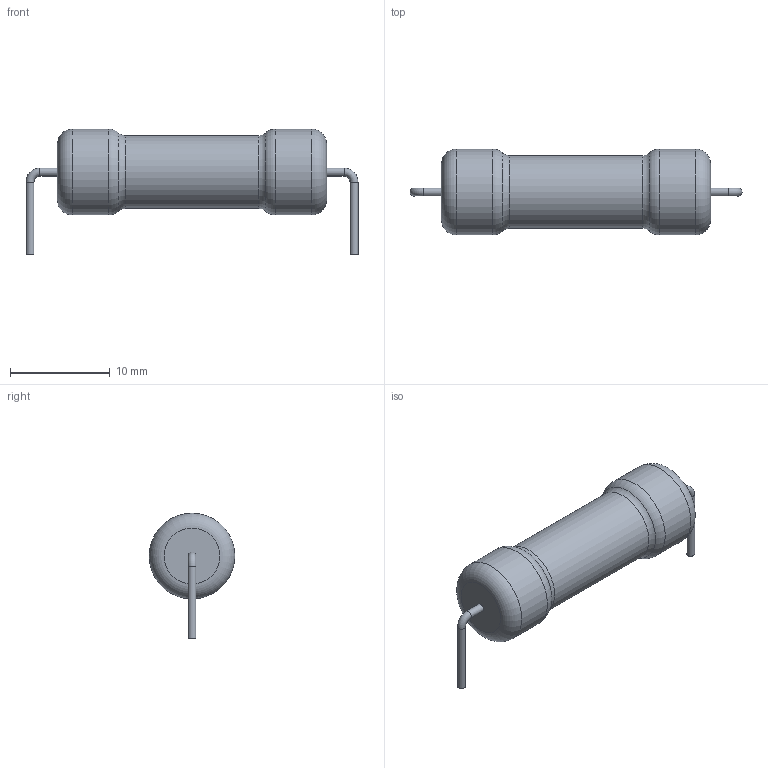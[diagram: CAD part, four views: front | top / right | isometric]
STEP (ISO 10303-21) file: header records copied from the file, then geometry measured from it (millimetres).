
FILE_DESCRIPTION(('STEP AP203'), '1');
FILE_NAME('ﾑ2-29ﾂ-2-ﾍ(1)', '', ('UNSPECIFIED'), ('UNSPECIFIED'), 'ASCON STEP Converter 1.6', 'ASCON Math Kernel', '');
FILE_SCHEMA(('CONFIG_CONTROL_DESIGN'));
Length unit declared in the file: millimetre
Bounding box: 33.3 x 8.6 x 12.6 mm (x, y, z)
Volume: 1313.5 mm3; surface area: 809.7 mm2
Topology: 1 solids, 1 shells, 19 faces, 33 edges, 18 vertices
Faces by surface type: torus 8, cylinder 7, plane 4
Full cylindrical faces by diameter (mm): 0.8 x4, 7.307 x1, 8.6 x2
Entity records: 570 total; most frequent: DIRECTION 76, CARTESIAN_POINT 56, AXIS2_PLACEMENT_3D 38, EDGE_LOOP 36, ORIENTED_EDGE 36, FACE_OUTER_BOUND 30, COLOUR_RGB 20, FILL_AREA_STYLE_COLOUR 20
